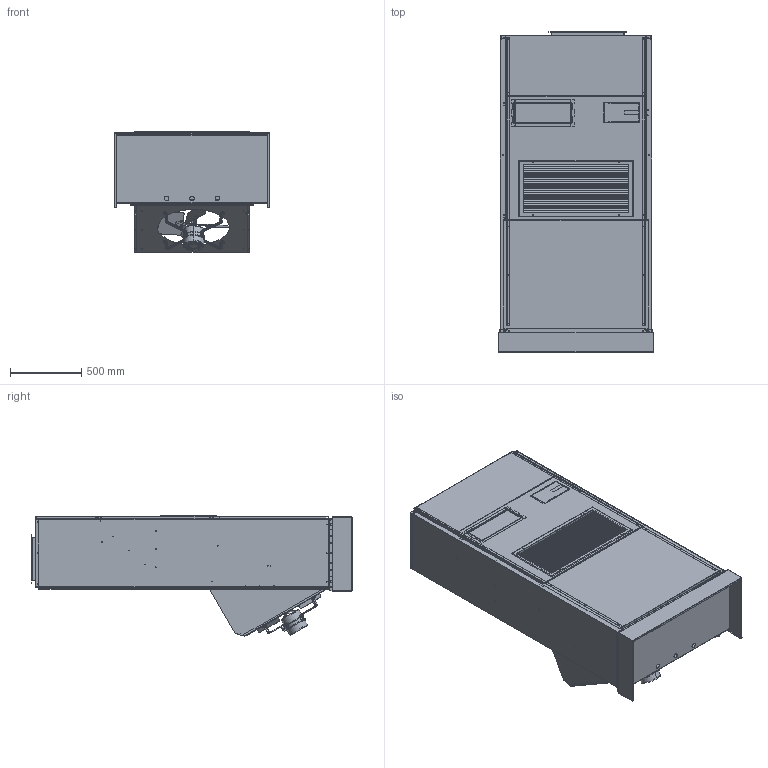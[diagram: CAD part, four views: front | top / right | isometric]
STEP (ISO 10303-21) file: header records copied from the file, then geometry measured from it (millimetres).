
FILE_DESCRIPTION (( 'STEP AP214' ), '1' );
FILE_NAME ('STEP_1900.STEP', '2016-07-12T17:05:49', ( 'BMC' ), ( 'Bard Manufacturing Co., Inc.' ), 'SwSTEP 2.0', 'SolidWorks 2016', '' );
FILE_SCHEMA (( 'AUTOMOTIVE_DESIGN' ));
Length unit declared in the file: inch
Products named in the file (1): STEP_1900
Bounding box: 1089.02 x 2249.86 x 848.11 mm (x, y, z)
Volume: 12368044.5 mm3; surface area: 18532896.7 mm2
Topology: 70 solids, 70 shells, 3703 faces, 9749 edges, 6268 vertices
Faces by surface type: plane 1498, cylinder 1403, cone 443, bspline 283, torus 76
Entity records: 129520 total; most frequent: CARTESIAN_POINT 32677, DIRECTION 20185, ORIENTED_EDGE 19498, EDGE_CURVE 9749, AXIS2_PLACEMENT_3D 7449, VERTEX_POINT 6268, VECTOR 5287, LINE 5287
